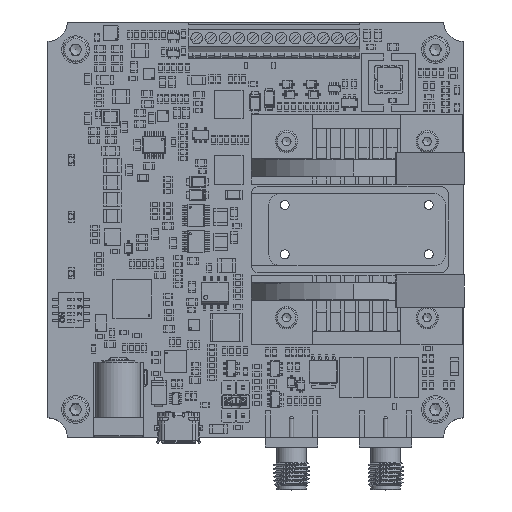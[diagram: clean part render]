
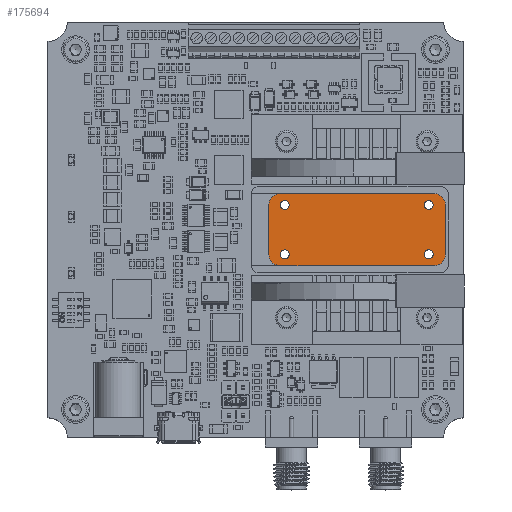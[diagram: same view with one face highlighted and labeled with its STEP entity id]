
A CAD part, top view. The second image highlights one B-rep face of the part: STEP entity #175694.
In plain terms, the highlighted planar face has unit normal (0, 0, 1).
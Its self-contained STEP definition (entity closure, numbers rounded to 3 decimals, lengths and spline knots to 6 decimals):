
#8817=CIRCLE('',#201315,0.002);
#8818=CIRCLE('',#201318,0.002);
#8819=CIRCLE('',#201321,0.002);
#8820=CIRCLE('',#201324,0.002);
#8821=CIRCLE('',#201326,0.0008);
#8822=CIRCLE('',#201327,0.0008);
#8823=CIRCLE('',#201328,0.0008);
#8824=CIRCLE('',#201329,0.0008);
#39574=ORIENTED_EDGE('',*,*,#71927,.F.);
#39575=ORIENTED_EDGE('',*,*,#71928,.F.);
#39576=ORIENTED_EDGE('',*,*,#71929,.F.);
#39577=ORIENTED_EDGE('',*,*,#71930,.F.);
#39578=ORIENTED_EDGE('',*,*,#71921,.F.);
#39579=ORIENTED_EDGE('',*,*,#71923,.T.);
#39580=ORIENTED_EDGE('',*,*,#71925,.F.);
#39581=ORIENTED_EDGE('',*,*,#71926,.F.);
#39582=ORIENTED_EDGE('',*,*,#71912,.T.);
#39583=ORIENTED_EDGE('',*,*,#71915,.F.);
#39584=ORIENTED_EDGE('',*,*,#71917,.T.);
#39585=ORIENTED_EDGE('',*,*,#71919,.F.);
#71912=EDGE_CURVE('',#90513,#90512,#109437,.T.);
#71915=EDGE_CURVE('',#90514,#90512,#8817,.T.);
#71917=EDGE_CURVE('',#90514,#90515,#109441,.T.);
#71919=EDGE_CURVE('',#90516,#90515,#8818,.T.);
#71921=EDGE_CURVE('',#90517,#90516,#109444,.T.);
#71923=EDGE_CURVE('',#90517,#90518,#8819,.T.);
#71925=EDGE_CURVE('',#90519,#90518,#109447,.T.);
#71926=EDGE_CURVE('',#90513,#90519,#8820,.T.);
#71927=EDGE_CURVE('',#90520,#90520,#8821,.T.);
#71928=EDGE_CURVE('',#90521,#90521,#8822,.T.);
#71929=EDGE_CURVE('',#90522,#90522,#8823,.T.);
#71930=EDGE_CURVE('',#90523,#90523,#8824,.T.);
#90512=VERTEX_POINT('',#288814);
#90513=VERTEX_POINT('',#288816);
#90514=VERTEX_POINT('',#288820);
#90515=VERTEX_POINT('',#288824);
#90516=VERTEX_POINT('',#288828);
#90517=VERTEX_POINT('',#288832);
#90518=VERTEX_POINT('',#288836);
#90519=VERTEX_POINT('',#288840);
#90520=VERTEX_POINT('',#288846);
#90521=VERTEX_POINT('',#288848);
#90522=VERTEX_POINT('',#288850);
#90523=VERTEX_POINT('',#288852);
#109437=LINE('',#288815,#130315);
#109441=LINE('',#288825,#130319);
#109444=LINE('',#288833,#130322);
#109447=LINE('',#288841,#130325);
#130315=VECTOR('',#236480,1.);
#130319=VECTOR('',#236490,1.);
#130322=VECTOR('',#236499,1.);
#130325=VECTOR('',#236508,1.);
#145088=EDGE_LOOP('',(#39574));
#145089=EDGE_LOOP('',(#39575));
#145090=EDGE_LOOP('',(#39576));
#145091=EDGE_LOOP('',(#39577));
#145092=EDGE_LOOP('',(#39578,#39579,#39580,#39581,#39582,#39583,#39584,
#39585));
#155958=FACE_BOUND('',#145088,.T.);
#155959=FACE_BOUND('',#145089,.T.);
#155960=FACE_BOUND('',#145090,.T.);
#155961=FACE_BOUND('',#145091,.T.);
#155962=FACE_BOUND('',#145092,.T.);
#165839=PLANE('',#201325);
#175694=ADVANCED_FACE('',(#155958,#155959,#155960,#155961,#155962),#165839,
 .T.);
#201315=AXIS2_PLACEMENT_3D('',#288821,#236485,#236486);
#201318=AXIS2_PLACEMENT_3D('',#288829,#236494,#236495);
#201321=AXIS2_PLACEMENT_3D('',#288837,#236503,#236504);
#201324=AXIS2_PLACEMENT_3D('',#288843,#236511,#236512);
#201325=AXIS2_PLACEMENT_3D('',#288844,#236513,#236514);
#201326=AXIS2_PLACEMENT_3D('',#288845,#236515,#236516);
#201327=AXIS2_PLACEMENT_3D('',#288847,#236517,#236518);
#201328=AXIS2_PLACEMENT_3D('',#288849,#236519,#236520);
#201329=AXIS2_PLACEMENT_3D('',#288851,#236521,#236522);
#236480=DIRECTION('',(0.,-1.,0.));
#236485=DIRECTION('',(0.,0.,-1.));
#236486=DIRECTION('',(1.,0.,0.));
#236490=DIRECTION('',(1.,0.,0.));
#236494=DIRECTION('',(0.,0.,-1.));
#236495=DIRECTION('',(1.,0.,0.));
#236499=DIRECTION('',(0.,-1.,0.));
#236503=DIRECTION('',(0.,0.,1.));
#236504=DIRECTION('',(1.,0.,0.));
#236508=DIRECTION('',(1.,0.,0.));
#236511=DIRECTION('',(0.,0.,-1.));
#236512=DIRECTION('',(1.,0.,0.));
#236513=DIRECTION('',(0.,0.,1.));
#236514=DIRECTION('',(1.,0.,0.));
#236515=DIRECTION('',(0.,0.,1.));
#236516=DIRECTION('',(1.,0.,0.));
#236517=DIRECTION('',(0.,0.,1.));
#236518=DIRECTION('',(1.,0.,0.));
#236519=DIRECTION('',(0.,0.,1.));
#236520=DIRECTION('',(1.,0.,0.));
#236521=DIRECTION('',(0.,0.,1.));
#236522=DIRECTION('',(1.,0.,0.));
#288814=CARTESIAN_POINT('',(-0.0065,-0.03229,0.008));
#288815=CARTESIAN_POINT('',(-0.0065,-0.005295,0.008));
#288816=CARTESIAN_POINT('',(-0.0065,-0.004415,0.008));
#288820=CARTESIAN_POINT('',(-0.0045,-0.03429,0.008));
#288821=CARTESIAN_POINT('',(-0.0045,-0.03229,0.008));
#288824=CARTESIAN_POINT('',(0.0045,-0.03429,0.008));
#288825=CARTESIAN_POINT('',(0.,-0.03429,0.008));
#288828=CARTESIAN_POINT('',(0.0065,-0.03229,0.008));
#288829=CARTESIAN_POINT('',(0.0045,-0.03229,0.008));
#288832=CARTESIAN_POINT('',(0.0065,-0.004415,0.008));
#288833=CARTESIAN_POINT('',(0.0065,-0.005295,0.008));
#288836=CARTESIAN_POINT('',(0.0045,-0.002415,0.008));
#288837=CARTESIAN_POINT('',(0.0045,-0.004415,0.008));
#288840=CARTESIAN_POINT('',(-0.0045,-0.002415,0.008));
#288841=CARTESIAN_POINT('',(0.,-0.002415,0.008));
#288843=CARTESIAN_POINT('',(-0.0045,-0.004415,0.008));
#288844=CARTESIAN_POINT('',(0.,-0.002295,0.008));
#288845=CARTESIAN_POINT('',(0.00445,-0.00529,0.008));
#288846=CARTESIAN_POINT('',(0.00525,-0.00529,0.008));
#288847=CARTESIAN_POINT('',(-0.00445,-0.03129,0.008));
#288848=CARTESIAN_POINT('',(-0.00365,-0.03129,0.008));
#288849=CARTESIAN_POINT('',(0.00445,-0.03129,0.008));
#288850=CARTESIAN_POINT('',(0.00525,-0.03129,0.008));
#288851=CARTESIAN_POINT('',(-0.00445,-0.00529,0.008));
#288852=CARTESIAN_POINT('',(-0.00365,-0.00529,0.008));
